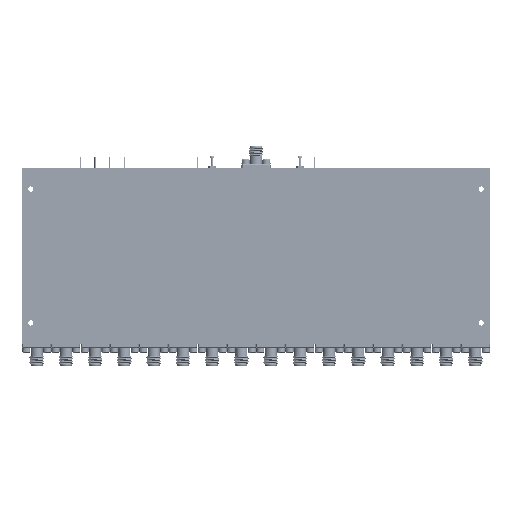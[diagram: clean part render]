
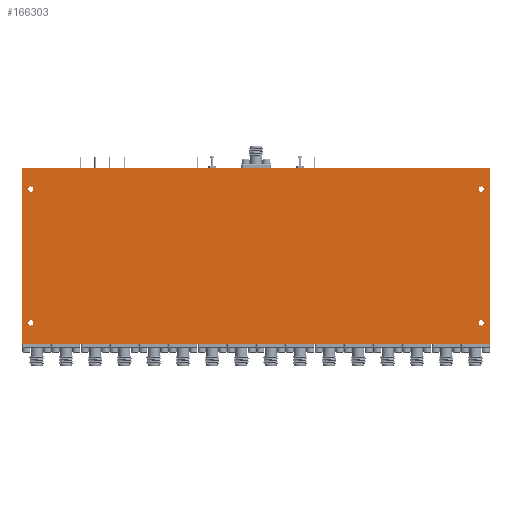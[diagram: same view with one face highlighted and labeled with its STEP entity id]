
A CAD part, front view. The second image highlights one B-rep face of the part: STEP entity #166303.
In plain terms, the highlighted planar face has unit normal (0, -1, 0).
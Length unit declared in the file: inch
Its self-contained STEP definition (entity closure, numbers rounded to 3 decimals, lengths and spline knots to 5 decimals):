
#828 = CARTESIAN_POINT ( 'NONE',  ( 36.64658, 40.9516, 34.68737 ) ) ;
#2337 = VECTOR ( 'NONE', #123696, 39.37008 ) ;
#4697 = DIRECTION ( 'NONE',  ( 0., 1., 0. ) ) ;
#4771 = VECTOR ( 'NONE', #15231, 39.37008 ) ;
#4817 = ORIENTED_EDGE ( 'NONE', *, *, #93234, .T. ) ;
#9217 = FACE_BOUND ( 'NONE', #59389, .T. ) ;
#10902 = EDGE_CURVE ( 'NONE', #36345, #51240, #14385, .T. ) ;
#14385 = LINE ( 'NONE', #828, #4771 ) ;
#14633 = EDGE_CURVE ( 'NONE', #113031, #113031, #47612, .T. ) ;
#15231 = DIRECTION ( 'NONE',  ( 0., 0., 1. ) ) ;
#16148 = VECTOR ( 'NONE', #40454, 39.37008 ) ;
#17830 = EDGE_CURVE ( 'NONE', #51240, #35725, #116190, .T. ) ;
#18781 = CIRCLE ( 'NONE', #114007, 0.0445 ) ;
#27127 = EDGE_CURVE ( 'NONE', #35725, #30886, #63600, .T. ) ;
#30886 = VERTEX_POINT ( 'NONE', #117621 ) ;
#32066 = DIRECTION ( 'NONE',  ( 0., 0., 1. ) ) ;
#33051 = CARTESIAN_POINT ( 'NONE',  ( 44.49658, 40.9516, 35.08687 ) ) ;
#33762 = DIRECTION ( 'NONE',  ( 0., 1., 0. ) ) ;
#34073 = EDGE_CURVE ( 'NONE', #30886, #36345, #44636, .T. ) ;
#34654 = VECTOR ( 'NONE', #91621, 39.37008 ) ;
#35725 = VERTEX_POINT ( 'NONE', #153150 ) ;
#36145 = DIRECTION ( 'NONE',  ( 0., 1., 0. ) ) ;
#36345 = VERTEX_POINT ( 'NONE', #96213 ) ;
#39543 = AXIS2_PLACEMENT_3D ( 'NONE', #96915, #45015, #136056 ) ;
#40190 = CARTESIAN_POINT ( 'NONE',  ( 44.49658, 40.9516, 37.33237 ) ) ;
#40454 = DIRECTION ( 'NONE',  ( 1., 0., 0. ) ) ;
#41305 = CARTESIAN_POINT ( 'NONE',  ( 36.79658, 40.9516, 37.33237 ) ) ;
#44636 = LINE ( 'NONE', #71808, #2337 ) ;
#44937 = AXIS2_PLACEMENT_3D ( 'NONE', #139249, #64393, #116241 ) ;
#44961 = EDGE_CURVE ( 'NONE', #76057, #76057, #18781, .T. ) ;
#45015 = DIRECTION ( 'NONE',  ( 0., 1., 0. ) ) ;
#47612 = CIRCLE ( 'NONE', #44937, 0.0445 ) ;
#48869 = AXIS2_PLACEMENT_3D ( 'NONE', #41305, #4697, #93165 ) ;
#50035 = ORIENTED_EDGE ( 'NONE', *, *, #14633, .T. ) ;
#51240 = VERTEX_POINT ( 'NONE', #123202 ) ;
#59389 = EDGE_LOOP ( 'NONE', ( #102004 ) ) ;
#63600 = LINE ( 'NONE', #78048, #34654 ) ;
#64393 = DIRECTION ( 'NONE',  ( 0., 1., 0. ) ) ;
#71378 = FACE_BOUND ( 'NONE', #88876, .T. ) ;
#71808 = CARTESIAN_POINT ( 'NONE',  ( 36.64658, 40.9516, 34.68737 ) ) ;
#72186 = CIRCLE ( 'NONE', #123788, 0.0445 ) ;
#76057 = VERTEX_POINT ( 'NONE', #129574 ) ;
#77082 = CARTESIAN_POINT ( 'NONE',  ( 36.64658, 40.9516, 37.68737 ) ) ;
#78048 = CARTESIAN_POINT ( 'NONE',  ( 44.64658, 40.9516, 34.68737 ) ) ;
#78835 = VERTEX_POINT ( 'NONE', #130726 ) ;
#84925 = PLANE ( 'NONE',  #39543 ) ;
#88876 = EDGE_LOOP ( 'NONE', ( #90829 ) ) ;
#90829 = ORIENTED_EDGE ( 'NONE', *, *, #150910, .T. ) ;
#91621 = DIRECTION ( 'NONE',  ( 0., 0., -1. ) ) ;
#93165 = DIRECTION ( 'NONE',  ( 0., 0., 1. ) ) ;
#93234 = EDGE_CURVE ( 'NONE', #149685, #149685, #72186, .T. ) ;
#96213 = CARTESIAN_POINT ( 'NONE',  ( 36.64658, 40.9516, 34.68737 ) ) ;
#96915 = CARTESIAN_POINT ( 'NONE',  ( 40.64658, 40.9516, 36.18737 ) ) ;
#98531 = ORIENTED_EDGE ( 'NONE', *, *, #27127, .F. ) ;
#100086 = ORIENTED_EDGE ( 'NONE', *, *, #17830, .F. ) ;
#102004 = ORIENTED_EDGE ( 'NONE', *, *, #44961, .T. ) ;
#113031 = VERTEX_POINT ( 'NONE', #124919 ) ;
#114007 = AXIS2_PLACEMENT_3D ( 'NONE', #40190, #36145, #145692 ) ;
#116190 = LINE ( 'NONE', #77082, #16148 ) ;
#116241 = DIRECTION ( 'NONE',  ( 0., 0., 1. ) ) ;
#117621 = CARTESIAN_POINT ( 'NONE',  ( 44.64658, 40.9516, 34.68737 ) ) ;
#118827 = EDGE_LOOP ( 'NONE', ( #4817 ) ) ;
#123202 = CARTESIAN_POINT ( 'NONE',  ( 36.64658, 40.9516, 37.68737 ) ) ;
#123696 = DIRECTION ( 'NONE',  ( -1., 0., 0. ) ) ;
#123788 = AXIS2_PLACEMENT_3D ( 'NONE', #150376, #33762, #32066 ) ;
#124919 = CARTESIAN_POINT ( 'NONE',  ( 36.79658, 40.9516, 35.08687 ) ) ;
#125780 = FACE_BOUND ( 'NONE', #154664, .T. ) ;
#126345 = EDGE_LOOP ( 'NONE', ( #153222, #159011, #98531, #100086 ) ) ;
#129574 = CARTESIAN_POINT ( 'NONE',  ( 44.49658, 40.9516, 37.37687 ) ) ;
#130726 = CARTESIAN_POINT ( 'NONE',  ( 36.79658, 40.9516, 37.37687 ) ) ;
#136056 = DIRECTION ( 'NONE',  ( 0., 0., 1. ) ) ;
#139249 = CARTESIAN_POINT ( 'NONE',  ( 36.79658, 40.9516, 35.04237 ) ) ;
#145692 = DIRECTION ( 'NONE',  ( 0., 0., 1. ) ) ;
#149685 = VERTEX_POINT ( 'NONE', #33051 ) ;
#150376 = CARTESIAN_POINT ( 'NONE',  ( 44.49658, 40.9516, 35.04237 ) ) ;
#150910 = EDGE_CURVE ( 'NONE', #78835, #78835, #160324, .T. ) ;
#153150 = CARTESIAN_POINT ( 'NONE',  ( 44.64658, 40.9516, 37.68737 ) ) ;
#153222 = ORIENTED_EDGE ( 'NONE', *, *, #10902, .F. ) ;
#154664 = EDGE_LOOP ( 'NONE', ( #50035 ) ) ;
#159011 = ORIENTED_EDGE ( 'NONE', *, *, #34073, .F. ) ;
#160324 = CIRCLE ( 'NONE', #48869, 0.0445 ) ;
#162418 = FACE_BOUND ( 'NONE', #118827, .T. ) ;
#164936 = FACE_OUTER_BOUND ( 'NONE', #126345, .T. ) ;
#166303 = ADVANCED_FACE ( 'NONE', ( #125780, #71378, #9217, #162418, #164936 ), #84925, .F. ) ;
